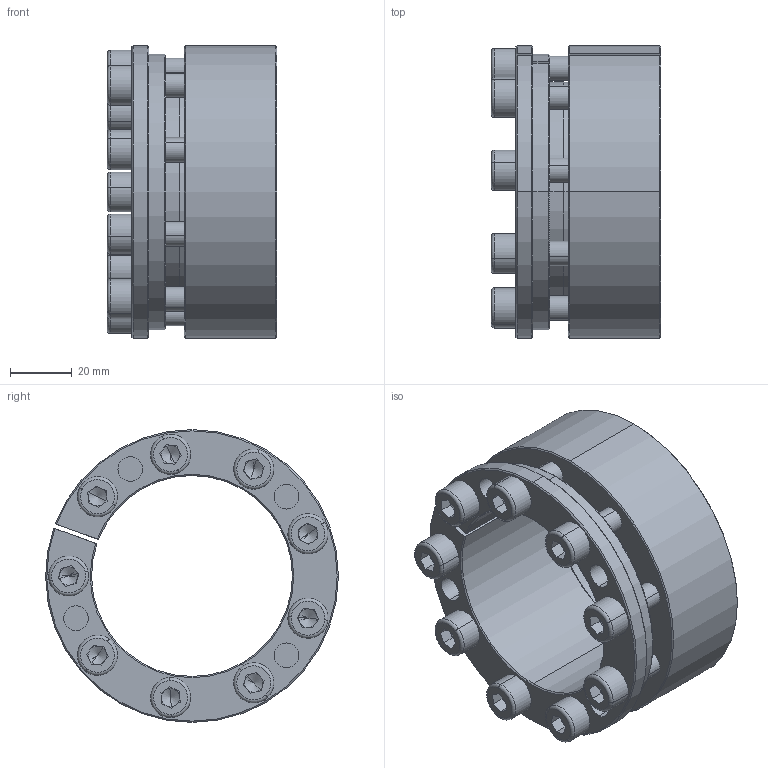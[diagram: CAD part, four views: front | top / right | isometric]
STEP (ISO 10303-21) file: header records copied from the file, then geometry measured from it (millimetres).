
FILE_DESCRIPTION (( 'STEP AP214' ), '1' );
FILE_NAME ('H5×°ÅäÌå65-95.STEP', '2022-07-26T02:31:47', ( '' ), ( '' ), 'SwSTEP 2.0', 'SolidWorks 2022', '' );
FILE_SCHEMA (( 'AUTOMOTIVE_DESIGN' ));
Length unit declared in the file: millimetre
Products named in the file (1): H5蚾饜极65-95
Bounding box: 55 x 94.9 x 94.9 mm (x, y, z)
Volume: 151544.7 mm3; surface area: 51471.5 mm2
Topology: 1 solids, 1 shells, 328 faces, 821 edges, 504 vertices
Faces by surface type: plane 143, cylinder 95, cone 72, torus 18
Entity records: 9816 total; most frequent: DIRECTION 1828, CARTESIAN_POINT 1708, ORIENTED_EDGE 1606, EDGE_CURVE 803, AXIS2_PLACEMENT_3D 720, VERTEX_POINT 504, CIRCLE 391, LINE 388
